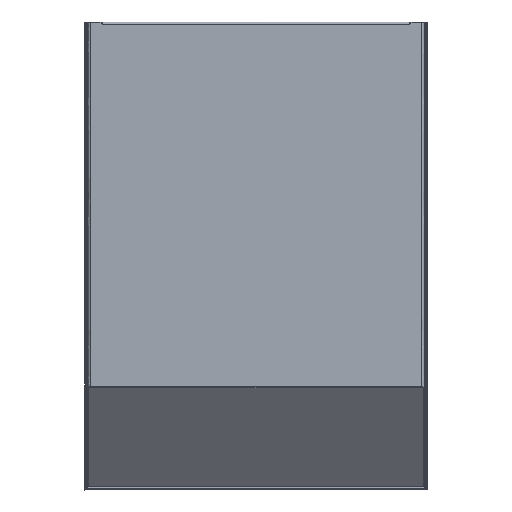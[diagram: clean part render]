
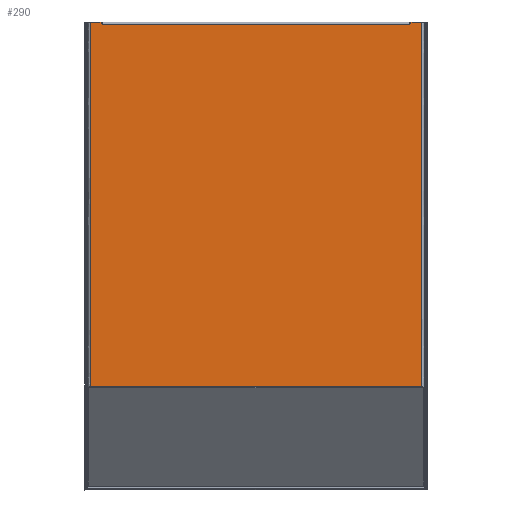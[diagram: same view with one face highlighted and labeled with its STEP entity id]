
A CAD part, front view. The second image highlights one B-rep face of the part: STEP entity #290.
In plain terms, the highlighted planar face has unit normal (0, -1, 0).
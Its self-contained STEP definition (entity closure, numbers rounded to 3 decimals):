
#290=ADVANCED_FACE('',(#828),#8265,.T.);
#828=FACE_OUTER_BOUND('',#1386,.T.);
#1386=EDGE_LOOP('',(#2742,#2743,#2744,#2745,#2746,#2747,#2748,#2749));
#2742=ORIENTED_EDGE('',*,*,#4983,.T.);
#2743=ORIENTED_EDGE('',*,*,#4990,.T.);
#2744=ORIENTED_EDGE('',*,*,#4984,.T.);
#2745=ORIENTED_EDGE('',*,*,#4985,.T.);
#2746=ORIENTED_EDGE('',*,*,#4986,.T.);
#2747=ORIENTED_EDGE('',*,*,#4987,.T.);
#2748=ORIENTED_EDGE('',*,*,#4988,.T.);
#2749=ORIENTED_EDGE('',*,*,#4997,.T.);
#4983=EDGE_CURVE('',#7650,#7651,#6203,.T.);
#4984=EDGE_CURVE('',#7652,#7653,#6204,.T.);
#4985=EDGE_CURVE('',#7653,#7654,#6205,.T.);
#4986=EDGE_CURVE('',#7654,#7655,#6206,.T.);
#4987=EDGE_CURVE('',#7655,#7656,#6207,.T.);
#4988=EDGE_CURVE('',#7656,#7657,#6208,.T.);
#4990=EDGE_CURVE('',#7651,#7652,#6210,.T.);
#4997=EDGE_CURVE('',#7657,#7650,#6215,.T.);
#6203=B_SPLINE_CURVE_WITH_KNOTS('',1,(#13999,#14000),.UNSPECIFIED.,.F.,.F.,
(2,2),(0.,258.),.UNSPECIFIED.);
#6204=B_SPLINE_CURVE_WITH_KNOTS('',1,(#14001,#14002),.UNSPECIFIED.,.F.,.F.,
(2,2),(0.,8.961),.UNSPECIFIED.);
#6205=B_SPLINE_CURVE_WITH_KNOTS('',1,(#14003,#14004),.UNSPECIFIED.,.F.,.F.,
(2,2),(0.,305.922),.UNSPECIFIED.);
#6206=B_SPLINE_CURVE_WITH_KNOTS('',1,(#14005,#14006),.UNSPECIFIED.,.F.,.F.,
(2,2),(0.,278.),.UNSPECIFIED.);
#6207=B_SPLINE_CURVE_WITH_KNOTS('',1,(#14007,#14008),.UNSPECIFIED.,.F.,.F.,
(2,2),(0.,305.922),.UNSPECIFIED.);
#6208=B_SPLINE_CURVE_WITH_KNOTS('',1,(#14009,#14010),.UNSPECIFIED.,.F.,.F.,
(2,2),(0.,8.961),.UNSPECIFIED.);
#6210=B_SPLINE_CURVE_WITH_KNOTS('',1,(#14013,#14014),.UNSPECIFIED.,.F.,.F.,
(2,2),(0.,2.078),.UNSPECIFIED.);
#6215=B_SPLINE_CURVE_WITH_KNOTS('',1,(#14029,#14030),.UNSPECIFIED.,.F.,.F.,
(2,2),(0.,2.078),.UNSPECIFIED.);
#7650=VERTEX_POINT('',#13865);
#7651=VERTEX_POINT('',#13866);
#7652=VERTEX_POINT('',#13867);
#7653=VERTEX_POINT('',#13868);
#7654=VERTEX_POINT('',#13869);
#7655=VERTEX_POINT('',#13870);
#7656=VERTEX_POINT('',#13871);
#7657=VERTEX_POINT('',#13872);
#8265=PLANE('',#8879);
#8879=AXIS2_PLACEMENT_3D('',#13162,#9090,$);
#9090=DIRECTION('',(0.,-1.,0.));
#13162=CARTESIAN_POINT('',(-166.801,-85.,30.593));
#13865=CARTESIAN_POINT('',(129.,-85.,-1.8));
#13866=CARTESIAN_POINT('',(-129.,-85.,-1.8));
#13867=CARTESIAN_POINT('',(-130.039,-85.,0.));
#13868=CARTESIAN_POINT('',(-139.,-85.,0.));
#13869=CARTESIAN_POINT('',(-139.,-85.,-305.922));
#13870=CARTESIAN_POINT('',(139.,-85.,-305.922));
#13871=CARTESIAN_POINT('',(139.,-85.,0.));
#13872=CARTESIAN_POINT('',(130.039,-85.,0.));
#13999=CARTESIAN_POINT('',(129.,-85.,-1.8));
#14000=CARTESIAN_POINT('',(-129.,-85.,-1.8));
#14001=CARTESIAN_POINT('',(-130.039,-85.,0.));
#14002=CARTESIAN_POINT('',(-139.,-85.,0.));
#14003=CARTESIAN_POINT('',(-139.,-85.,0.));
#14004=CARTESIAN_POINT('',(-139.,-85.,-305.922));
#14005=CARTESIAN_POINT('',(-139.,-85.,-305.922));
#14006=CARTESIAN_POINT('',(139.,-85.,-305.922));
#14007=CARTESIAN_POINT('',(139.,-85.,-305.922));
#14008=CARTESIAN_POINT('',(139.,-85.,0.));
#14009=CARTESIAN_POINT('',(139.,-85.,0.));
#14010=CARTESIAN_POINT('',(130.039,-85.,0.));
#14013=CARTESIAN_POINT('',(-129.,-85.,-1.8));
#14014=CARTESIAN_POINT('',(-130.039,-85.,0.));
#14029=CARTESIAN_POINT('',(130.039,-85.,0.));
#14030=CARTESIAN_POINT('',(129.,-85.,-1.8));
